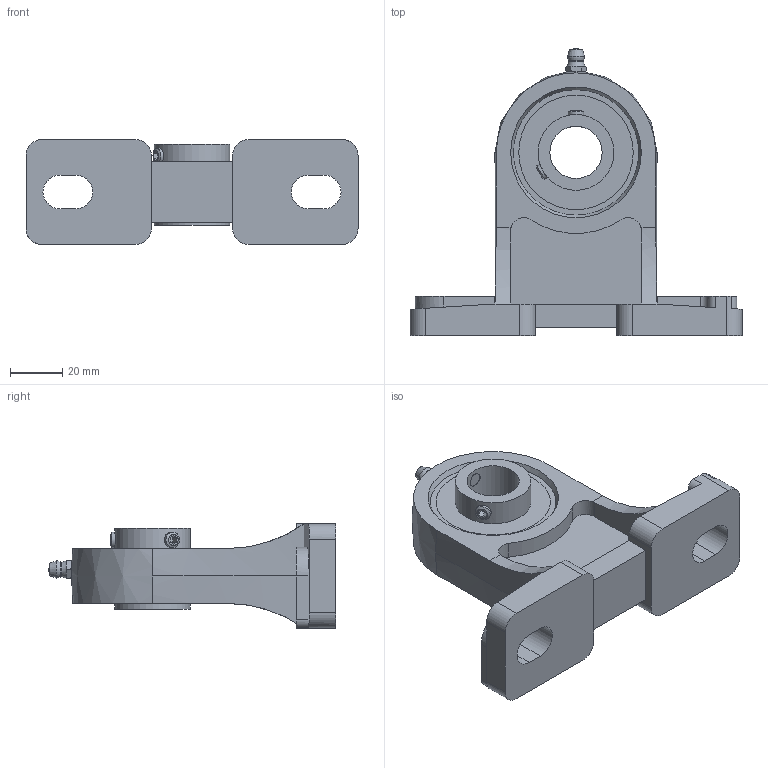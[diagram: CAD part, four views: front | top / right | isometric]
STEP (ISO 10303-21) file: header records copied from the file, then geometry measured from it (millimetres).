
FILE_DESCRIPTION((''),'2;1');
FILE_NAME('\\Ts-tgl068\j-cad-d-base\00.3DCADデータ作成フォルダ\01.ピロー形\UCPH200\UCPH204.stp','2014-04-18T08:30:01',('btec_1106_2'),(''),'Autodesk Inventor 2012','Autodesk Inventor 2012','');
FILE_SCHEMA(('AUTOMOTIVE_DESIGN { 1 0 10303 214 1 1 1 1 }'));
Length unit declared in the file: millimetre
Products named in the file (4): UCPH200; PH [番手=204 ul]; シリーズUC [番手=204 ul]; GU1
Assembly tree (3 placements, depth 2):
  UCPH200
    PH [番手=204 ul]
    シリーズUC [番手=204 ul]
    GU1
Bounding box: 127 x 109.79 x 40 mm (x, y, z)
Volume: 130102.1 mm3; surface area: 38873.1 mm2
Topology: 3 solids, 3 shells, 145 faces, 360 edges, 231 vertices
Faces by surface type: plane 76, cylinder 41, cone 17, bspline 5, sphere 4, torus 2
Full cylindrical faces by diameter (mm): 5.359 x1, 6 x2, 6.35 x1, 20 x1, 29 x2
Entity records: 4560 total; most frequent: CARTESIAN_POINT 1114, DIRECTION 684, ORIENTED_EDGE 666, EDGE_CURVE 333, AXIS2_PLACEMENT_3D 252, VERTEX_POINT 223, EDGE_LOOP 184, VECTOR 180
